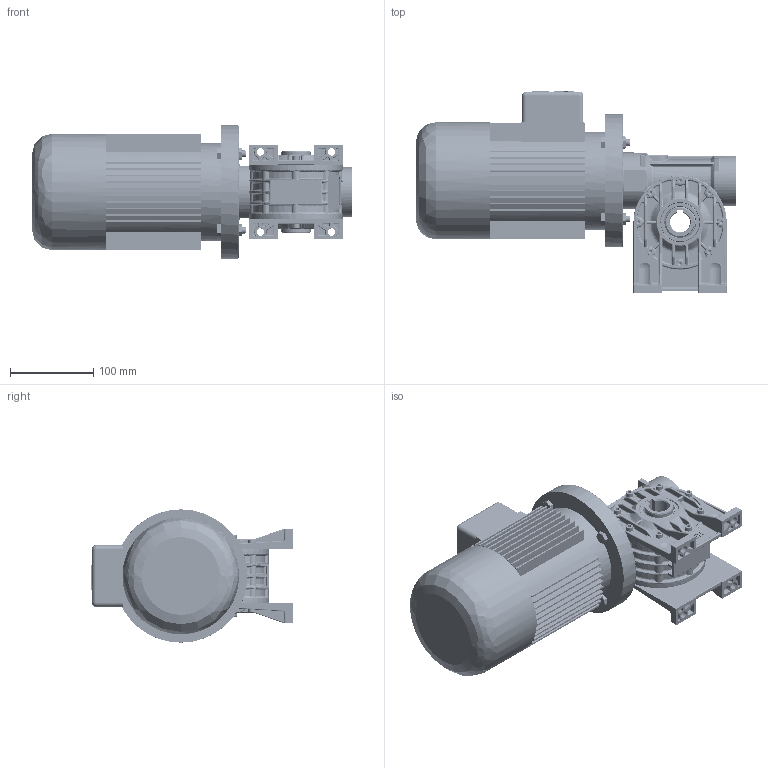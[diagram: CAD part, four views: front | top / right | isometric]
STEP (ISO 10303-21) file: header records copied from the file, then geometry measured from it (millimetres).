
FILE_DESCRIPTION (( 'STEP AP203' ), '1' );
FILE_NAME ('3F002089.STEP', '2012-07-23T06:00:38', ( 'Amministratore' ), ( 'SerteK sas' ), 'SwSTEP 2.0', 'SolidWorks 2009', '' );
FILE_SCHEMA (( 'CONFIG_CONTROL_DESIGN' ));
Products named in the file (1): 3F002089
Bounding box: 384 x 243 x 160 mm (x, y, z)
Surface area: 521002.7 mm2 (no closed solid volume)
Topology: 0 solids, 55 shells, 7563 faces, 19240 edges, 11739 vertices
Faces by surface type: bspline 2693, cylinder 2568, plane 1849, cone 453
Entity records: 378721 total; most frequent: CARTESIAN_POINT 224373, ORIENTED_EDGE 37990, DIRECTION 23538, EDGE_CURVE 19011, VERTEX_POINT 11741, AXIS2_PLACEMENT_3D 8740, B_SPLINE_CURVE_WITH_KNOTS 8002, EDGE_LOOP 7880
